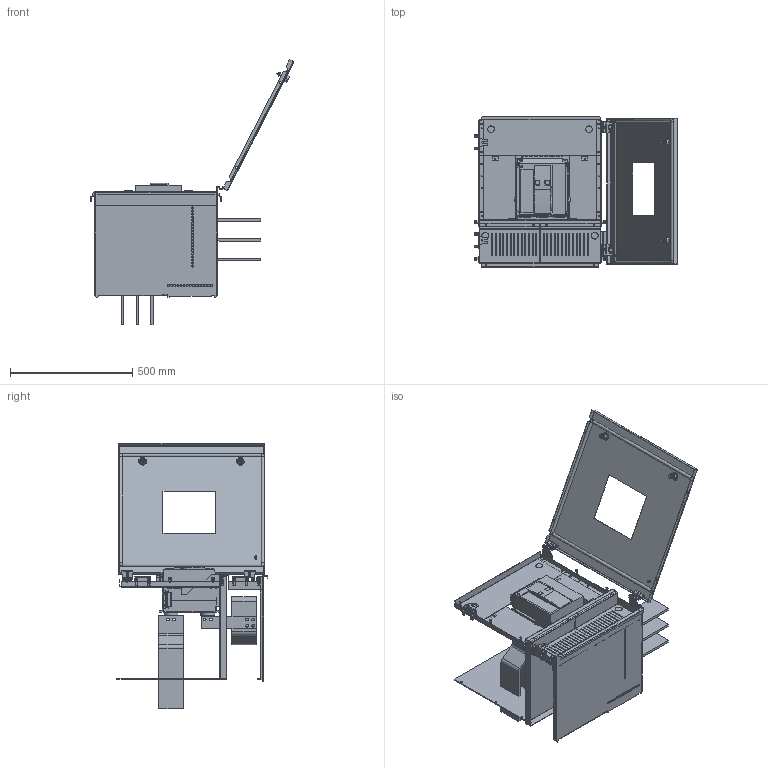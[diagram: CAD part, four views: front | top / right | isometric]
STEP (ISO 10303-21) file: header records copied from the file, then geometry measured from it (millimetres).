
FILE_DESCRIPTION(('CAx-IF Rec.Pracs.---Model Styling and Organization---1.2---2011-12-15','CAx-IF Rec.Pracs.---Geometric and Assembly Validation Properties---4.1---2014-06-16','CAx-IF Rec.Pracs.---PMI Polyline Presentation---2.0---2013-05-24'),'2;1');
FILE_NAME('R5M212IB3H61121S (one-side).stp','2021-05-05T12:46:39+03:00',(''),(''),'STEP Interface 4.4 by CT CoreTechnologie','3D_Evolution4.4 by CT CoreTechnologie','');
FILE_SCHEMA(('AUTOMOTIVE_DESIGN { 1 0 10303 214 1 1 1 1 }'));
Length unit declared in the file: millimetre
Products named in the file (37): R5M212IB3H61121S(îäíîñòîðîííèé); SHNDO1_-00; M6 x 16-DIN 7991 ISR_thread; RB.0116.00.00.3_-00; RB.0687.00.00.1_-00; AC00C485; SHNDO2_-00; RB.1233.00.00.0_-00; RB.1591.00.00.0_-00; RB.1226.00.00.0_-00; RB.1227.00.00.0_-00; SHNDT2F_-00; MS737-1-1(1); MS737-1-1 Z_ ªàëâ; MS737-1-1 stop_fixed; SHNDT1F_-00; MS737-1-1(2); Masterpact NT16 F; Rear vertical connection Masterpact NT F(1); 0444151601_S; Rear vertical connection Masterpact NT F(2); Basic circuit breaker Masterpact NT06 to NT16 3P Fixed; SHNDDS1F_-00; RB.1436.00.00.0_-00; SHNDDS2F_-00; RB.1435.00.00.0_-00; SHNDDS3F_-00; RB.1437.00.00.0_-00; RB.1227.00.00.0_-01; RB.1437.00.00.0_-01; SHNDT3F_-00; RB.1438.00.00.0 ÑÁ_-00 (NT06;16 F); RB.1438.00.01.0_-00 (NT06;16 F); PF 7x14 MCC2.0_0600x0600; AC00C266; AC00C061_AC00C061; Ì6õ12-A5100231_straight
Assembly tree (72 placements, depth 4):
  R5M212IB3H61121S(îäíîñòîðîííèé)
    SHNDO1_-00  x3
    M6 x 16-DIN 7991 ISR_thread  x11
    RB.0116.00.00.3_-00  x2
    RB.0687.00.00.1_-00  x2
    AC00C485  x12
    SHNDO2_-00  x3
    RB.1233.00.00.0_-00
    RB.1591.00.00.0_-00
    RB.1226.00.00.0_-00
    RB.1227.00.00.0_-00
    SHNDT2F_-00
    MS737-1-1(1)
      MS737-1-1 Z_ ªàëâ
      MS737-1-1 stop_fixed
    SHNDT1F_-00
    MS737-1-1(2)
      MS737-1-1 Z_ ªàëâ
      MS737-1-1 stop_fixed
    Masterpact NT16 F
      Rear vertical connection Masterpact NT F(1)
        0444151601_S  x3
      Rear vertical connection Masterpact NT F(2)
        0444151601_S  x3
      Basic circuit breaker Masterpact NT06 to NT16 3P Fixed
    SHNDDS1F_-00
    RB.1436.00.00.0_-00
    SHNDDS2F_-00
    RB.1435.00.00.0_-00  x2
    SHNDDS3F_-00
    RB.1437.00.00.0_-00
    RB.1227.00.00.0_-01
    RB.1437.00.00.0_-01
    SHNDT3F_-00
    RB.1438.00.00.0 ÑÁ_-00 (NT06;16 F)
      RB.1438.00.01.0_-00 (NT06;16 F)
      PF 7x14 MCC2.0_0600x0600
      AC00C266  x2
      AC00C061_AC00C061
      Ì6õ12-A5100231_straight
Bounding box: 832 x 617 x 1083.39 mm (x, y, z)
Surface area: 4488856.4 mm2 (no closed solid volume)
Topology: 0 solids, 100 shells, 4109 faces, 10891 edges, 6975 vertices
Faces by surface type: plane 2404, cylinder 1341, bspline 364
Entity records: 86360 total; most frequent: CARTESIAN_POINT 18158, ORIENTED_EDGE 13914, DIRECTION 13247, EDGE_CURVE 6957, VECTOR 5447, LINE 5447, VERTEX_POINT 4563, AXIS2_PLACEMENT_3D 3900
